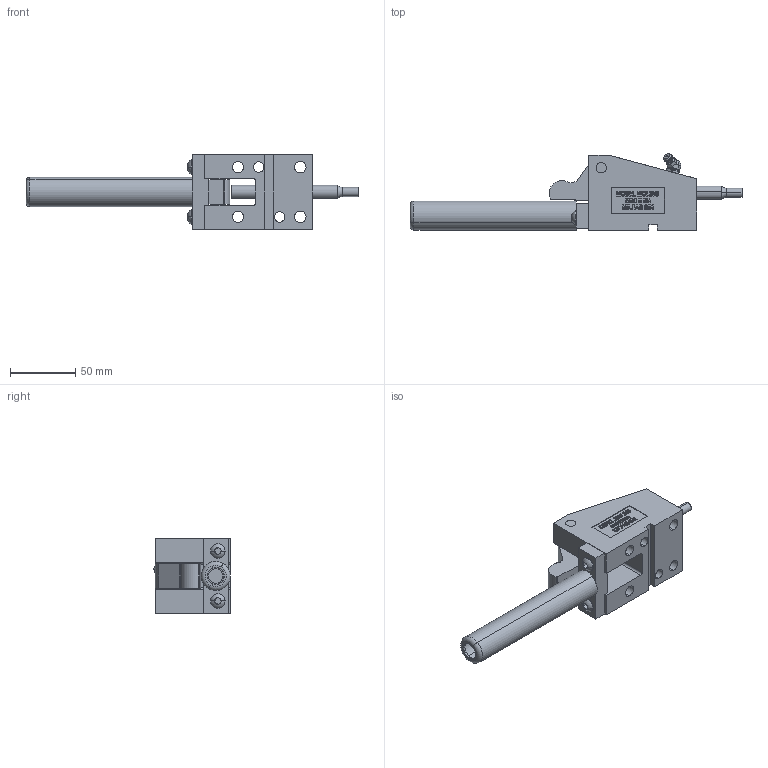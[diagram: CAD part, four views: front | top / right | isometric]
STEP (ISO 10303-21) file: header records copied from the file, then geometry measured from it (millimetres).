
FILE_DESCRIPTION (( 'STEP AP214' ), '1' );
FILE_NAME ('MOL37545-C.STEP', '2014-01-07T22:25:24', ( 'user' ), ( '' ), 'SwSTEP 2.0', 'SolidWorks 2009', '' );
FILE_SCHEMA (( 'AUTOMOTIVE_DESIGN' ));
Length unit declared in the file: inch
Products named in the file (1): MOL37545-C
Bounding box: 253.59 x 58.4 x 57.15 mm (x, y, z)
Surface area: 66229.4 mm2 (no closed solid volume)
Topology: 0 solids, 11 shells, 443 faces, 1458 edges, 992 vertices
Faces by surface type: plane 246, bspline 84, cylinder 77, torus 20, cone 12, sphere 4
Entity records: 26782 total; most frequent: CARTESIAN_POINT 9111, ORIENTED_EDGE 2467, DIRECTION 2084, EDGE_CURVE 1456, VERTEX_POINT 992, LINE 960, VECTOR 960, AXIS2_PLACEMENT_3D 562
